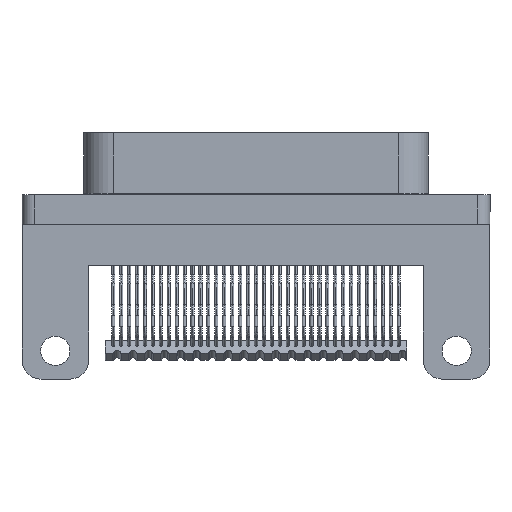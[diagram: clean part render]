
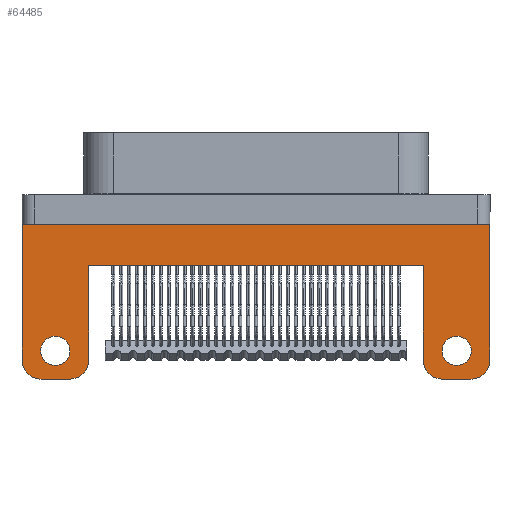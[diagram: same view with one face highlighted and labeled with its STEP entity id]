
A CAD part, front view. The second image highlights one B-rep face of the part: STEP entity #64485.
In plain terms, the highlighted planar face has unit normal (0, -1, 0).
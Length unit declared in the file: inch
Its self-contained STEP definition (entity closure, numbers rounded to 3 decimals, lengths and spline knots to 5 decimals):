
#108 = DIRECTION ( 'NONE',  ( 0., 0., 1. ) ) ;
#163 = EDGE_CURVE ( 'NONE', #56853, #36724, #23135, .T. ) ;
#2680 = DIRECTION ( 'NONE',  ( 0., 0., 1. ) ) ;
#2897 = DIRECTION ( 'NONE',  ( 0., 1., 0. ) ) ;
#4654 = VERTEX_POINT ( 'NONE', #34241 ) ;
#4836 = AXIS2_PLACEMENT_3D ( 'NONE', #8361, #58104, #15138 ) ;
#5690 = CIRCLE ( 'NONE', #12046, 0.06 ) ;
#6011 = VECTOR ( 'NONE', #63874, 39.37008 ) ;
#7650 = AXIS2_PLACEMENT_3D ( 'NONE', #37761, #51302, #44524 ) ;
#7758 = CARTESIAN_POINT ( 'NONE',  ( 0.5275, -0.17, -1.3404 ) ) ;
#8313 = CARTESIAN_POINT ( 'NONE',  ( -0.6775, -0.17, -0.541 ) ) ;
#8361 = CARTESIAN_POINT ( 'NONE',  ( -0.6775, -0.17, -0.481 ) ) ;
#8520 = LINE ( 'NONE', #7758, #43756 ) ;
#8890 = CARTESIAN_POINT ( 'NONE',  ( -0.6325, -0.17, -0.452 ) ) ;
#8919 = VERTEX_POINT ( 'NONE', #20071 ) ;
#8942 = EDGE_CURVE ( 'NONE', #4654, #66794, #61342, .T. ) ;
#9609 = CARTESIAN_POINT ( 'NONE',  ( 0.5275, -0.17, -0.481 ) ) ;
#10164 = ORIENTED_EDGE ( 'NONE', *, *, #33405, .T. ) ;
#10289 = PLANE ( 'NONE',  #56602 ) ;
#10296 = ORIENTED_EDGE ( 'NONE', *, *, #69766, .T. ) ;
#10916 = ORIENTED_EDGE ( 'NONE', *, *, #14504, .T. ) ;
#11465 = VERTEX_POINT ( 'NONE', #27718 ) ;
#11592 = CARTESIAN_POINT ( 'NONE',  ( 0.6325, -0.17, -0.452 ) ) ;
#12046 = AXIS2_PLACEMENT_3D ( 'NONE', #73021, #67045, #61071 ) ;
#14504 = EDGE_CURVE ( 'NONE', #66794, #4654, #33018, .T. ) ;
#15138 = DIRECTION ( 'NONE',  ( 0., 0., 1. ) ) ;
#15334 = VECTOR ( 'NONE', #38601, 39.37008 ) ;
#15703 = CARTESIAN_POINT ( 'NONE',  ( -0.5875, -0.17, -0.541 ) ) ;
#16264 = CARTESIAN_POINT ( 'NONE',  ( 0.5275, -0.17, -0.184 ) ) ;
#16355 = DIRECTION ( 'NONE',  ( 0., 0., 1. ) ) ;
#16618 = CARTESIAN_POINT ( 'NONE',  ( 0.6775, -0.17, -0.541 ) ) ;
#16878 = EDGE_CURVE ( 'NONE', #49673, #70207, #21225, .T. ) ;
#17186 = CARTESIAN_POINT ( 'NONE',  ( 0.7375, -0.17, -1.69331 ) ) ;
#18121 = ORIENTED_EDGE ( 'NONE', *, *, #8942, .T. ) ;
#19015 = VECTOR ( 'NONE', #63796, 39.37008 ) ;
#19263 = VECTOR ( 'NONE', #30899, 39.37008 ) ;
#19371 = CARTESIAN_POINT ( 'NONE',  ( -0.5275, -0.17, -0.481 ) ) ;
#20071 = CARTESIAN_POINT ( 'NONE',  ( -0.7375, -0.17, -0.481 ) ) ;
#21225 = LINE ( 'NONE', #62208, #19015 ) ;
#23135 = LINE ( 'NONE', #17186, #34480 ) ;
#23375 = EDGE_CURVE ( 'NONE', #8919, #60619, #73983, .T. ) ;
#23735 = EDGE_CURVE ( 'NONE', #11465, #69787, #42762, .T. ) ;
#24156 = CARTESIAN_POINT ( 'NONE',  ( 0., -0.17, -0.541 ) ) ;
#25360 = EDGE_CURVE ( 'NONE', #35181, #39980, #8520, .T. ) ;
#26866 = DIRECTION ( 'NONE',  ( 0., 0., 1. ) ) ;
#26904 = CARTESIAN_POINT ( 'NONE',  ( -0.7375, -0.17, -0.053 ) ) ;
#27484 = AXIS2_PLACEMENT_3D ( 'NONE', #73885, #50825, #40418 ) ;
#27718 = CARTESIAN_POINT ( 'NONE',  ( 0.6785, -0.17, -0.452 ) ) ;
#28881 = EDGE_LOOP ( 'NONE', ( #10916, #18121 ) ) ;
#29316 = AXIS2_PLACEMENT_3D ( 'NONE', #11592, #41473, #54621 ) ;
#29998 = CARTESIAN_POINT ( 'NONE',  ( 0.7375, -0.17, -0.053 ) ) ;
#30366 = EDGE_CURVE ( 'NONE', #32903, #64534, #49239, .T. ) ;
#30899 = DIRECTION ( 'NONE',  ( 1., 0., 0. ) ) ;
#32903 = VERTEX_POINT ( 'NONE', #16618 ) ;
#32999 = CARTESIAN_POINT ( 'NONE',  ( -0.5875, -0.17, -0.481 ) ) ;
#33018 = CIRCLE ( 'NONE', #7650, 0.046 ) ;
#33024 = FACE_BOUND ( 'NONE', #34102, .T. ) ;
#33405 = EDGE_CURVE ( 'NONE', #65543, #49673, #58901, .T. ) ;
#34102 = EDGE_LOOP ( 'NONE', ( #62969, #54618 ) ) ;
#34241 = CARTESIAN_POINT ( 'NONE',  ( -0.5865, -0.17, -0.452 ) ) ;
#34480 = VECTOR ( 'NONE', #16355, 39.37008 ) ;
#35181 = VERTEX_POINT ( 'NONE', #9609 ) ;
#35682 = CIRCLE ( 'NONE', #29316, 0.046 ) ;
#35718 = ORIENTED_EDGE ( 'NONE', *, *, #163, .T. ) ;
#36401 = CIRCLE ( 'NONE', #68130, 0.06 ) ;
#36724 = VERTEX_POINT ( 'NONE', #29998 ) ;
#37761 = CARTESIAN_POINT ( 'NONE',  ( -0.6325, -0.17, -0.452 ) ) ;
#38012 = DIRECTION ( 'NONE',  ( 0., 0., 1. ) ) ;
#38014 = CARTESIAN_POINT ( 'NONE',  ( 0.7375, -0.17, -0.184 ) ) ;
#38601 = DIRECTION ( 'NONE',  ( -1., 0., 0. ) ) ;
#39593 = LINE ( 'NONE', #52734, #6011 ) ;
#39980 = VERTEX_POINT ( 'NONE', #16264 ) ;
#40104 = VECTOR ( 'NONE', #74396, 39.37008 ) ;
#40418 = DIRECTION ( 'NONE',  ( 0., 0., 1. ) ) ;
#41473 = DIRECTION ( 'NONE',  ( 0., 1., 0. ) ) ;
#42074 = EDGE_CURVE ( 'NONE', #69787, #11465, #35682, .T. ) ;
#42142 = EDGE_CURVE ( 'NONE', #65543, #45561, #69254, .T. ) ;
#42208 = ORIENTED_EDGE ( 'NONE', *, *, #77776, .T. ) ;
#42503 = ORIENTED_EDGE ( 'NONE', *, *, #68364, .T. ) ;
#42762 = CIRCLE ( 'NONE', #27484, 0.046 ) ;
#43395 = AXIS2_PLACEMENT_3D ( 'NONE', #8890, #2897, #26866 ) ;
#43527 = ORIENTED_EDGE ( 'NONE', *, *, #56164, .T. ) ;
#43756 = VECTOR ( 'NONE', #38012, 39.37008 ) ;
#44524 = DIRECTION ( 'NONE',  ( 0., 0., 1. ) ) ;
#45561 = VERTEX_POINT ( 'NONE', #8313 ) ;
#45644 = ORIENTED_EDGE ( 'NONE', *, *, #42142, .F. ) ;
#46139 = DIRECTION ( 'NONE',  ( 0., 0., 1. ) ) ;
#48121 = CARTESIAN_POINT ( 'NONE',  ( 0.5875, -0.17, -0.541 ) ) ;
#48446 = LINE ( 'NONE', #38014, #19263 ) ;
#49239 = LINE ( 'NONE', #24156, #64754 ) ;
#49673 = VERTEX_POINT ( 'NONE', #19371 ) ;
#49944 = ORIENTED_EDGE ( 'NONE', *, *, #70739, .T. ) ;
#50088 = ORIENTED_EDGE ( 'NONE', *, *, #23375, .F. ) ;
#50157 = CARTESIAN_POINT ( 'NONE',  ( -0.7375, -0.17, -1.69331 ) ) ;
#50794 = ORIENTED_EDGE ( 'NONE', *, *, #16878, .T. ) ;
#50825 = DIRECTION ( 'NONE',  ( 0., 1., 0. ) ) ;
#51302 = DIRECTION ( 'NONE',  ( 0., 1., 0. ) ) ;
#51361 = CARTESIAN_POINT ( 'NONE',  ( 0.7375, -0.17, -1.69331 ) ) ;
#52170 = CARTESIAN_POINT ( 'NONE',  ( -0.6785, -0.17, -0.452 ) ) ;
#52447 = CARTESIAN_POINT ( 'NONE',  ( -0.5275, -0.17, -0.184 ) ) ;
#52509 = FACE_BOUND ( 'NONE', #28881, .T. ) ;
#52734 = CARTESIAN_POINT ( 'NONE',  ( 0.7375, -0.17, -0.053 ) ) ;
#54618 = ORIENTED_EDGE ( 'NONE', *, *, #23735, .T. ) ;
#54621 = DIRECTION ( 'NONE',  ( 0., 0., 1. ) ) ;
#55161 = DIRECTION ( 'NONE',  ( 0., -1., 0. ) ) ;
#55203 = ORIENTED_EDGE ( 'NONE', *, *, #30366, .F. ) ;
#55780 = CARTESIAN_POINT ( 'NONE',  ( 0., -0.17, -0.541 ) ) ;
#56164 = EDGE_CURVE ( 'NONE', #35181, #64534, #36401, .T. ) ;
#56602 = AXIS2_PLACEMENT_3D ( 'NONE', #51361, #76360, #46139 ) ;
#56853 = VERTEX_POINT ( 'NONE', #58238 ) ;
#58104 = DIRECTION ( 'NONE',  ( 0., -1., 0. ) ) ;
#58238 = CARTESIAN_POINT ( 'NONE',  ( 0.7375, -0.17, -0.481 ) ) ;
#58824 = DIRECTION ( 'NONE',  ( 0., -1., 0. ) ) ;
#58901 = CIRCLE ( 'NONE', #62767, 0.06 ) ;
#60619 = VERTEX_POINT ( 'NONE', #26904 ) ;
#61071 = DIRECTION ( 'NONE',  ( 0., 0., 1. ) ) ;
#61342 = CIRCLE ( 'NONE', #43395, 0.046 ) ;
#61455 = EDGE_LOOP ( 'NONE', ( #50088, #49944, #45644, #10164, #50794, #42208, #72734, #43527, #55203, #42503, #35718, #10296 ) ) ;
#61849 = CARTESIAN_POINT ( 'NONE',  ( 0.5875, -0.17, -0.481 ) ) ;
#62208 = CARTESIAN_POINT ( 'NONE',  ( -0.5275, -0.17, -1.3404 ) ) ;
#62767 = AXIS2_PLACEMENT_3D ( 'NONE', #32999, #58824, #2680 ) ;
#62969 = ORIENTED_EDGE ( 'NONE', *, *, #42074, .T. ) ;
#63796 = DIRECTION ( 'NONE',  ( 0., 0., 1. ) ) ;
#63874 = DIRECTION ( 'NONE',  ( -1., 0., 0. ) ) ;
#64485 = ADVANCED_FACE ( 'NONE', ( #33024, #52509, #69989 ), #10289, .F. ) ;
#64534 = VERTEX_POINT ( 'NONE', #48121 ) ;
#64754 = VECTOR ( 'NONE', #72286, 39.37008 ) ;
#65543 = VERTEX_POINT ( 'NONE', #15703 ) ;
#65850 = CIRCLE ( 'NONE', #4836, 0.06 ) ;
#66794 = VERTEX_POINT ( 'NONE', #52170 ) ;
#67045 = DIRECTION ( 'NONE',  ( 0., -1., 0. ) ) ;
#68130 = AXIS2_PLACEMENT_3D ( 'NONE', #61849, #55161, #108 ) ;
#68364 = EDGE_CURVE ( 'NONE', #32903, #56853, #5690, .T. ) ;
#69254 = LINE ( 'NONE', #55780, #15334 ) ;
#69766 = EDGE_CURVE ( 'NONE', #36724, #60619, #39593, .T. ) ;
#69787 = VERTEX_POINT ( 'NONE', #76184 ) ;
#69989 = FACE_OUTER_BOUND ( 'NONE', #61455, .T. ) ;
#70207 = VERTEX_POINT ( 'NONE', #52447 ) ;
#70739 = EDGE_CURVE ( 'NONE', #8919, #45561, #65850, .T. ) ;
#72286 = DIRECTION ( 'NONE',  ( -1., 0., 0. ) ) ;
#72734 = ORIENTED_EDGE ( 'NONE', *, *, #25360, .F. ) ;
#73021 = CARTESIAN_POINT ( 'NONE',  ( 0.6775, -0.17, -0.481 ) ) ;
#73885 = CARTESIAN_POINT ( 'NONE',  ( 0.6325, -0.17, -0.452 ) ) ;
#73983 = LINE ( 'NONE', #50157, #40104 ) ;
#74396 = DIRECTION ( 'NONE',  ( 0., 0., 1. ) ) ;
#76184 = CARTESIAN_POINT ( 'NONE',  ( 0.5865, -0.17, -0.452 ) ) ;
#76360 = DIRECTION ( 'NONE',  ( 0., 1., 0. ) ) ;
#77776 = EDGE_CURVE ( 'NONE', #70207, #39980, #48446, .T. ) ;
